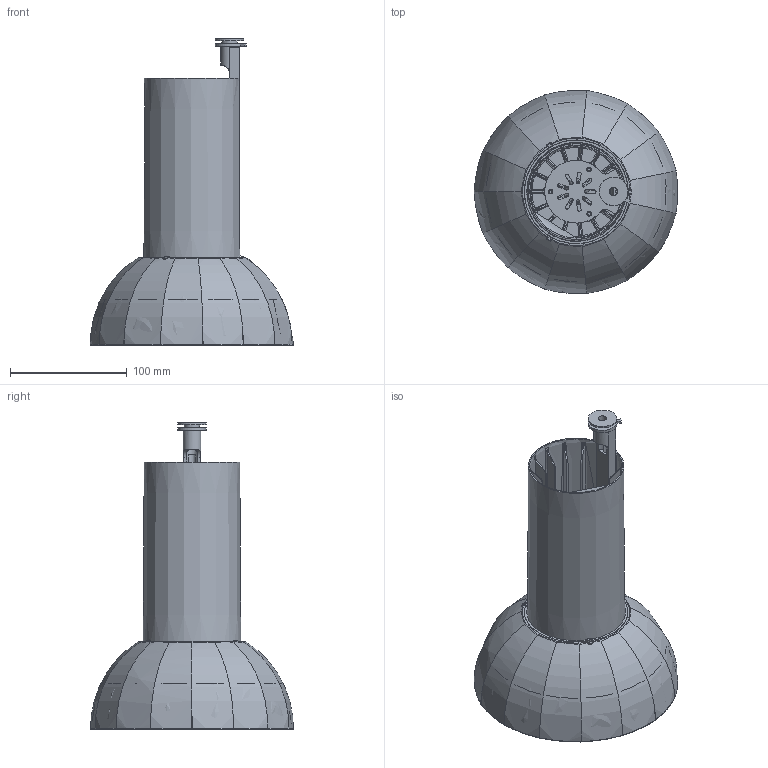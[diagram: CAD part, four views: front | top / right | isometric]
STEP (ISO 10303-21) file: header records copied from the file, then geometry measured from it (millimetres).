
FILE_DESCRIPTION(/* description */ ('STEP AP214'),/* implementation_level */ '2;1');
FILE_NAME(/* name */ 'Casto modules - Orb.step',/* time_stamp */ '2026-10-13T10:05:50+02:00',/* author */ (''),/* organization */ (''),/* preprocessor_version */ 'ST-DEVELOPER v20.2',/* originating_system */ 'Autodesk Translation Framework v15.15.0.0',/* authorisation */ '');
FILE_SCHEMA (('AUTOMOTIVE_DESIGN { 1 0 10303 214 3 1 1 }'));
Length unit declared in the file: millimetre
Products named in the file (14): Expo wysoki UGR; expo; nypel track; DR0002489A1007_forma1; 92.70.131.00; DR0002489A1005_forma1; DR0002489A1003_forma1; 2-1674-M; DR0002489A1004_forma1; 16208807_02_(LES15).stp; 2026-08-05-12-24-31-093; 2026-08-13-05-20-13-833; 2026-08-13-03-34-55-201; 2026-08-11-08-22-23-976
Assembly tree (13 placements, depth 4):
  Expo wysoki UGR
    expo
      nypel track
      DR0002489A1007_forma1
      92.70.131.00
      DR0002489A1005_forma1
      DR0002489A1003_forma1
      2-1674-M
      DR0002489A1004_forma1
      16208807_02_(LES15).stp
    2026-08-05-12-24-31-093
      2026-08-13-05-20-13-833
        2026-08-13-03-34-55-201
    2026-08-11-08-22-23-976
Bounding box: 174.57 x 174.4 x 262.7 mm (x, y, z)
Volume: 353007.6 mm3; surface area: 292698.8 mm2
Topology: 13 solids, 13 shells, 1113 faces, 3102 edges, 2031 vertices
Faces by surface type: cylinder 476, bspline 301, plane 236, cone 39, torus 39, sphere 22
Full cylindrical faces by diameter (mm): 0.725 x1, 2.542 x48, 2.759 x20, 3.3 x74, 4 x3, 4.2 x3, 6 x1, 7 x2, 8.917 x9, 10 x11, 13 x1, 15 x2, 16.5 x1, 17.5 x1, 24.5 x1, 45 x1, 74 x1, 75 x1, 76 x1, 77.835 x14, 80 x15, 84.9 x2, 88.8 x1, 89.1 x1
Entity records: 117648 total; most frequent: CARTESIAN_POINT 91881, ORIENTED_EDGE 6198, DIRECTION 4176, EDGE_CURVE 3099, VERTEX_POINT 2031, AXIS2_PLACEMENT_3D 1598, B_SPLINE_CURVE_WITH_KNOTS 1194, EDGE_LOOP 1188
